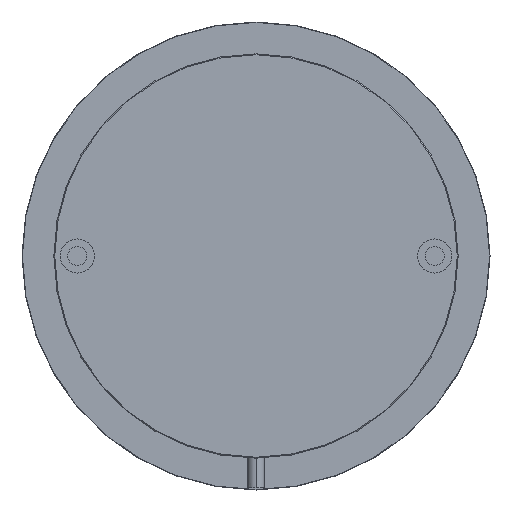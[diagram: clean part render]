
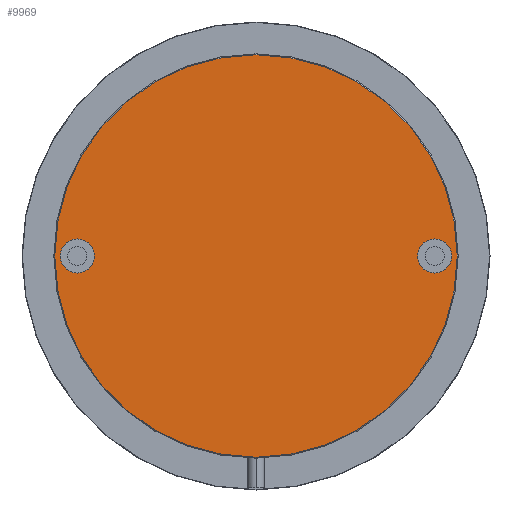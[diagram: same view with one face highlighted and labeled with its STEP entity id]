
A CAD part, left-side view. The second image highlights one B-rep face of the part: STEP entity #9969.
In plain terms, the highlighted planar face has unit normal (-1, 0, 0).
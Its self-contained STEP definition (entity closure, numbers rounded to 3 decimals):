
#406 = VERTEX_POINT ( 'NONE', #7449 ) ;
#461 = AXIS2_PLACEMENT_3D ( 'NONE', #10681, #9479, #17595 ) ;
#1297 = VERTEX_POINT ( 'NONE', #8181 ) ;
#1380 = CARTESIAN_POINT ( 'NONE',  ( -7., 0., 47.3 ) ) ;
#1499 = AXIS2_PLACEMENT_3D ( 'NONE', #6338, #15994, #7732 ) ;
#1663 = CIRCLE ( 'NONE', #461, 4. ) ;
#2113 = VERTEX_POINT ( 'NONE', #5039 ) ;
#2285 = DIRECTION ( 'NONE',  ( -1., 0., 0. ) ) ;
#2559 = CARTESIAN_POINT ( 'NONE',  ( -7., 0., 0. ) ) ;
#2658 = EDGE_CURVE ( 'NONE', #8112, #8639, #8478, .T. ) ;
#3513 = FACE_OUTER_BOUND ( 'NONE', #11137, .T. ) ;
#3947 = VERTEX_POINT ( 'NONE', #10770 ) ;
#3967 = EDGE_CURVE ( 'NONE', #3947, #406, #4706, .T. ) ;
#4625 = EDGE_CURVE ( 'NONE', #2113, #1297, #1663, .T. ) ;
#4706 = CIRCLE ( 'NONE', #15010, 4. ) ;
#4709 = DIRECTION ( 'NONE',  ( 0., 0., 1. ) ) ;
#5039 = CARTESIAN_POINT ( 'NONE',  ( -7., 42., -4. ) ) ;
#5171 = DIRECTION ( 'NONE',  ( -1., 0., 0. ) ) ;
#5966 = AXIS2_PLACEMENT_3D ( 'NONE', #2559, #8183, #9571 ) ;
#6047 = CARTESIAN_POINT ( 'NONE',  ( -7., -42., 0. ) ) ;
#6338 = CARTESIAN_POINT ( 'NONE',  ( -7., 0., 0. ) ) ;
#6591 = CIRCLE ( 'NONE', #1499, 47.3 ) ;
#7296 = AXIS2_PLACEMENT_3D ( 'NONE', #6047, #13141, #4709 ) ;
#7346 = ORIENTED_EDGE ( 'NONE', *, *, #15641, .T. ) ;
#7449 = CARTESIAN_POINT ( 'NONE',  ( -7., -42., 4. ) ) ;
#7732 = DIRECTION ( 'NONE',  ( 0., 0., -1. ) ) ;
#8032 = CARTESIAN_POINT ( 'NONE',  ( -7., 0., 0. ) ) ;
#8112 = VERTEX_POINT ( 'NONE', #12349 ) ;
#8181 = CARTESIAN_POINT ( 'NONE',  ( -7., 42., 4. ) ) ;
#8183 = DIRECTION ( 'NONE',  ( -1., 0., 0. ) ) ;
#8478 = CIRCLE ( 'NONE', #5966, 47.3 ) ;
#8639 = VERTEX_POINT ( 'NONE', #1380 ) ;
#8877 = CIRCLE ( 'NONE', #17700, 4. ) ;
#9069 = ORIENTED_EDGE ( 'NONE', *, *, #2658, .T. ) ;
#9479 = DIRECTION ( 'NONE',  ( -1., 0., 0. ) ) ;
#9571 = DIRECTION ( 'NONE',  ( 0., 0., -1. ) ) ;
#9969 = ADVANCED_FACE ( 'NONE', ( #3513, #14734, #13631 ), #13375, .F. ) ;
#10681 = CARTESIAN_POINT ( 'NONE',  ( -7., 42., 0. ) ) ;
#10704 = DIRECTION ( 'NONE',  ( 0., 0., 1. ) ) ;
#10742 = ORIENTED_EDGE ( 'NONE', *, *, #12049, .F. ) ;
#10770 = CARTESIAN_POINT ( 'NONE',  ( -7., -42., -4. ) ) ;
#11047 = EDGE_LOOP ( 'NONE', ( #10742, #16911 ) ) ;
#11137 = EDGE_LOOP ( 'NONE', ( #9069, #7346 ) ) ;
#12049 = EDGE_CURVE ( 'NONE', #1297, #2113, #8877, .T. ) ;
#12078 = CARTESIAN_POINT ( 'NONE',  ( -7., -42., 0. ) ) ;
#12349 = CARTESIAN_POINT ( 'NONE',  ( -7., 0., -47.3 ) ) ;
#12581 = CIRCLE ( 'NONE', #7296, 4. ) ;
#13141 = DIRECTION ( 'NONE',  ( -1., 0., 0. ) ) ;
#13296 = EDGE_LOOP ( 'NONE', ( #15099, #14366 ) ) ;
#13375 = PLANE ( 'NONE',  #17914 ) ;
#13551 = DIRECTION ( 'NONE',  ( 0., 0., -1. ) ) ;
#13631 = FACE_BOUND ( 'NONE', #13296, .T. ) ;
#14366 = ORIENTED_EDGE ( 'NONE', *, *, #3967, .F. ) ;
#14734 = FACE_BOUND ( 'NONE', #11047, .T. ) ;
#15010 = AXIS2_PLACEMENT_3D ( 'NONE', #12078, #2285, #10704 ) ;
#15099 = ORIENTED_EDGE ( 'NONE', *, *, #16836, .F. ) ;
#15641 = EDGE_CURVE ( 'NONE', #8639, #8112, #6591, .T. ) ;
#15994 = DIRECTION ( 'NONE',  ( -1., 0., 0. ) ) ;
#16232 = DIRECTION ( 'NONE',  ( 1., 0., 0. ) ) ;
#16836 = EDGE_CURVE ( 'NONE', #406, #3947, #12581, .T. ) ;
#16911 = ORIENTED_EDGE ( 'NONE', *, *, #4625, .F. ) ;
#17595 = DIRECTION ( 'NONE',  ( 0., 0., 1. ) ) ;
#17700 = AXIS2_PLACEMENT_3D ( 'NONE', #17777, #5171, #17827 ) ;
#17777 = CARTESIAN_POINT ( 'NONE',  ( -7., 42., 0. ) ) ;
#17827 = DIRECTION ( 'NONE',  ( 0., 0., 1. ) ) ;
#17914 = AXIS2_PLACEMENT_3D ( 'NONE', #8032, #16232, #13551 ) ;
